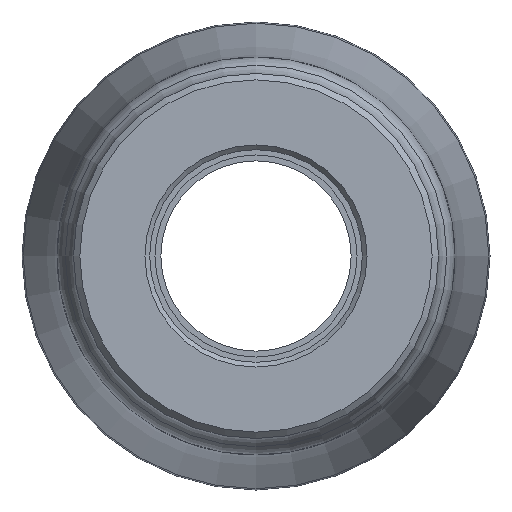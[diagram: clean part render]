
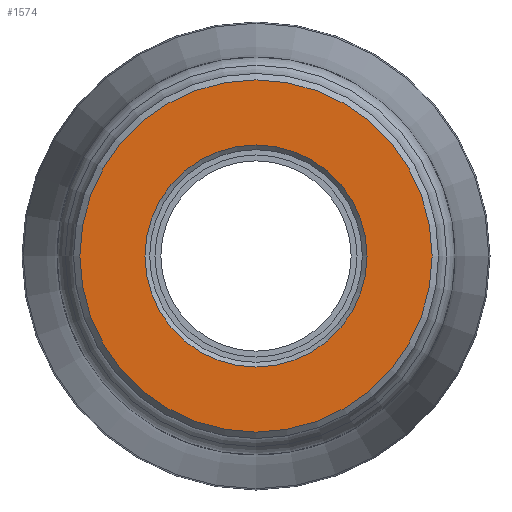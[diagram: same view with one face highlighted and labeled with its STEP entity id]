
A CAD part, left-side view. The second image highlights one B-rep face of the part: STEP entity #1574.
In plain terms, the highlighted planar face has unit normal (-1, 0, 0).
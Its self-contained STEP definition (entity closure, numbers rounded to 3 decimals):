
#24=FACE_BOUND('',#401,.T.);
#56=PLANE('',#1725);
#292=FACE_OUTER_BOUND('',#400,.T.);
#400=EDGE_LOOP('',(#1156));
#401=EDGE_LOOP('',(#1157));
#544=CIRCLE('',#1724,9.726);
#545=CIRCLE('',#1726,15.431);
#715=VERTEX_POINT('',#2764);
#716=VERTEX_POINT('',#2767);
#886=EDGE_CURVE('',#715,#715,#544,.T.);
#887=EDGE_CURVE('',#716,#716,#545,.T.);
#1156=ORIENTED_EDGE('',*,*,#887,.F.);
#1157=ORIENTED_EDGE('',*,*,#886,.F.);
#1574=ADVANCED_FACE('',(#292,#24),#56,.T.);
#1724=AXIS2_PLACEMENT_3D('',#2765,#2005,#2006);
#1725=AXIS2_PLACEMENT_3D('',#2766,#2007,#2008);
#1726=AXIS2_PLACEMENT_3D('',#2768,#2009,#2010);
#2005=DIRECTION('center_axis',(-1.,0.,0.));
#2006=DIRECTION('ref_axis',(0.,-1.,0.));
#2007=DIRECTION('center_axis',(-1.,0.,0.));
#2008=DIRECTION('ref_axis',(0.,0.,1.));
#2009=DIRECTION('center_axis',(1.,0.,0.));
#2010=DIRECTION('ref_axis',(0.,-1.,0.));
#2764=CARTESIAN_POINT('',(0.,9.726,0.));
#2765=CARTESIAN_POINT('Origin',(0.,0.,0.));
#2766=CARTESIAN_POINT('Origin',(0.,15.99,0.));
#2767=CARTESIAN_POINT('',(0.,15.431,0.));
#2768=CARTESIAN_POINT('Origin',(0.,0.,0.));
